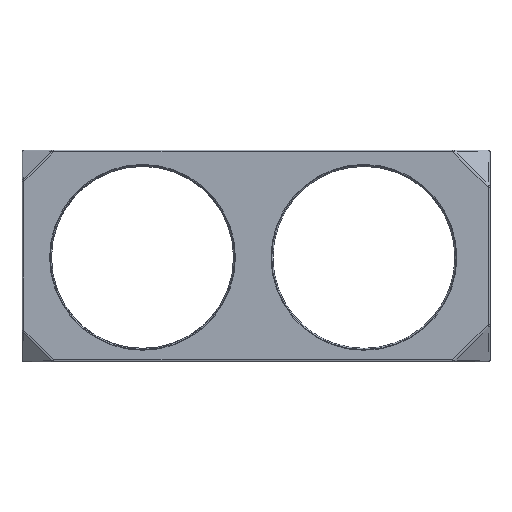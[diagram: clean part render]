
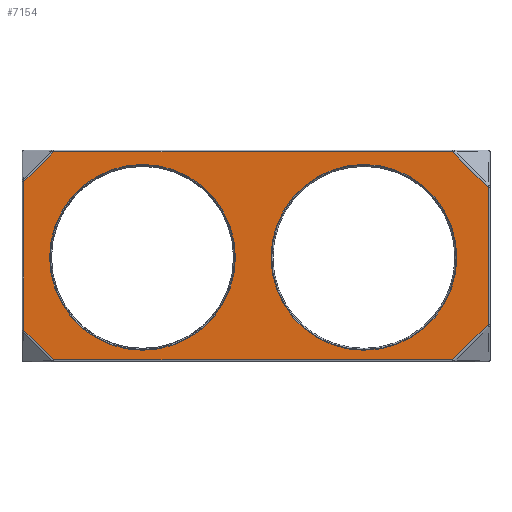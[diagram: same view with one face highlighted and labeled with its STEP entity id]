
A CAD part, top view. The second image highlights one B-rep face of the part: STEP entity #7154.
In plain terms, the highlighted planar face has unit normal (0, 0, 1).
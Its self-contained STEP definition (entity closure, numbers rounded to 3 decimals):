
#1=DIRECTION('',(0.,-1.,0.));
#2=VECTOR('',#1,73.102);
#3=CARTESIAN_POINT('',(257.7,37.301,2.));
#4=LINE('',#3,#2);
#5=DIRECTION('',(0.707,0.707,0.));
#6=VECTOR('',#5,26.727);
#7=CARTESIAN_POINT('',(238.801,-54.7,2.));
#8=LINE('',#7,#6);
#9=DIRECTION('',(-1.,0.,0.));
#10=VECTOR('',#9,212.602);
#11=CARTESIAN_POINT('',(238.801,-54.7,2.));
#12=LINE('',#11,#10);
#13=DIRECTION('',(0.707,-0.707,0.));
#14=VECTOR('',#13,22.52);
#15=CARTESIAN_POINT('',(10.275,-38.776,2.));
#16=LINE('',#15,#14);
#17=DIRECTION('',(0.,-1.,0.));
#18=VECTOR('',#17,79.052);
#19=CARTESIAN_POINT('',(10.275,40.276,2.));
#20=LINE('',#19,#18);
#21=DIRECTION('',(-0.707,-0.707,0.));
#22=VECTOR('',#21,22.52);
#23=CARTESIAN_POINT('',(26.199,56.2,2.));
#24=LINE('',#23,#22);
#25=DIRECTION('',(1.,0.,0.));
#26=VECTOR('',#25,212.602);
#27=CARTESIAN_POINT('',(26.199,56.2,2.));
#28=LINE('',#27,#26);
#29=DIRECTION('',(-0.707,0.707,0.));
#30=VECTOR('',#29,26.727);
#31=CARTESIAN_POINT('',(257.7,37.301,2.));
#32=LINE('',#31,#30);
#33=CARTESIAN_POINT('',(73.5,0.,2.));
#34=DIRECTION('',(0.,0.,-1.));
#35=DIRECTION('',(1.,0.,0.));
#36=AXIS2_PLACEMENT_3D('',#33,#34,#35);
#38=CARTESIAN_POINT('',(73.5,0.,2.));
#39=DIRECTION('',(0.,0.,-1.));
#40=DIRECTION('',(-1.,0.,0.));
#41=AXIS2_PLACEMENT_3D('',#38,#39,#40);
#43=CARTESIAN_POINT('',(191.5,0.,2.));
#44=DIRECTION('',(0.,0.,-1.));
#45=DIRECTION('',(1.,0.,0.));
#46=AXIS2_PLACEMENT_3D('',#43,#44,#45);
#48=CARTESIAN_POINT('',(191.5,0.,2.));
#49=DIRECTION('',(0.,0.,-1.));
#50=DIRECTION('',(-1.,0.,0.));
#51=AXIS2_PLACEMENT_3D('',#48,#49,#50);
#1197=CARTESIAN_POINT('',(257.7,37.301,2.));
#1234=CARTESIAN_POINT('',(10.275,40.276,2.));
#1244=CARTESIAN_POINT('',(26.199,56.2,2.));
#1395=CARTESIAN_POINT('',(238.801,-54.7,2.));
#6923=VERTEX_POINT('',#1197);
#6926=CARTESIAN_POINT('',(257.7,-35.801,2.));
#6927=VERTEX_POINT('',#6926);
#6941=VERTEX_POINT('',#1395);
#6944=CARTESIAN_POINT('',(26.199,-54.7,2.));
#6945=VERTEX_POINT('',#6944);
#6964=VERTEX_POINT('',#1234);
#6966=CARTESIAN_POINT('',(10.275,-38.776,2.));
#6967=VERTEX_POINT('',#6966);
#6979=VERTEX_POINT('',#1244);
#6982=CARTESIAN_POINT('',(238.801,56.2,2.));
#6983=VERTEX_POINT('',#6982);
#6992=CARTESIAN_POINT('',(123.007,0.,2.));
#6993=CARTESIAN_POINT('',(23.993,0.,2.));
#6994=VERTEX_POINT('',#6992);
#6995=VERTEX_POINT('',#6993);
#7000=CARTESIAN_POINT('',(241.007,0.,2.));
#7001=CARTESIAN_POINT('',(141.993,0.,2.));
#7002=VERTEX_POINT('',#7000);
#7003=VERTEX_POINT('',#7001);
#7119=CARTESIAN_POINT('',(0.,0.,2.));
#7120=DIRECTION('',(0.,0.,1.));
#7121=DIRECTION('',(1.,0.,0.));
#7122=AXIS2_PLACEMENT_3D('',#7119,#7120,#7121);
#7123=PLANE('',#7122);
#7125=ORIENTED_EDGE('',*,*,#7124,.T.);
#7127=ORIENTED_EDGE('',*,*,#7126,.F.);
#7129=ORIENTED_EDGE('',*,*,#7128,.T.);
#7131=ORIENTED_EDGE('',*,*,#7130,.F.);
#7133=ORIENTED_EDGE('',*,*,#7132,.F.);
#7135=ORIENTED_EDGE('',*,*,#7134,.F.);
#7137=ORIENTED_EDGE('',*,*,#7136,.T.);
#7139=ORIENTED_EDGE('',*,*,#7138,.F.);
#7140=EDGE_LOOP('',(#7125,#7127,#7129,#7131,#7133,#7135,#7137,#7139));
#7141=FACE_OUTER_BOUND('',#7140,.F.);
#7143=ORIENTED_EDGE('',*,*,#7142,.F.);
#7145=ORIENTED_EDGE('',*,*,#7144,.F.);
#7146=EDGE_LOOP('',(#7143,#7145));
#7147=FACE_BOUND('',#7146,.F.);
#7149=ORIENTED_EDGE('',*,*,#7148,.F.);
#7151=ORIENTED_EDGE('',*,*,#7150,.F.);
#7152=EDGE_LOOP('',(#7149,#7151));
#7153=FACE_BOUND('',#7152,.F.);
#7154=ADVANCED_FACE('',(#7141,#7147,#7153),#7123,.T.);
#37=CIRCLE('',#36,49.507);
#42=CIRCLE('',#41,49.507);
#47=CIRCLE('',#46,49.507);
#52=CIRCLE('',#51,49.507);
#7124=EDGE_CURVE('',#6923,#6927,#4,.T.);
#7126=EDGE_CURVE('',#6941,#6927,#8,.T.);
#7128=EDGE_CURVE('',#6941,#6945,#12,.T.);
#7130=EDGE_CURVE('',#6967,#6945,#16,.T.);
#7132=EDGE_CURVE('',#6964,#6967,#20,.T.);
#7134=EDGE_CURVE('',#6979,#6964,#24,.T.);
#7136=EDGE_CURVE('',#6979,#6983,#28,.T.);
#7138=EDGE_CURVE('',#6923,#6983,#32,.T.);
#7142=EDGE_CURVE('',#6994,#6995,#37,.T.);
#7144=EDGE_CURVE('',#6995,#6994,#42,.T.);
#7148=EDGE_CURVE('',#7002,#7003,#47,.T.);
#7150=EDGE_CURVE('',#7003,#7002,#52,.T.);
